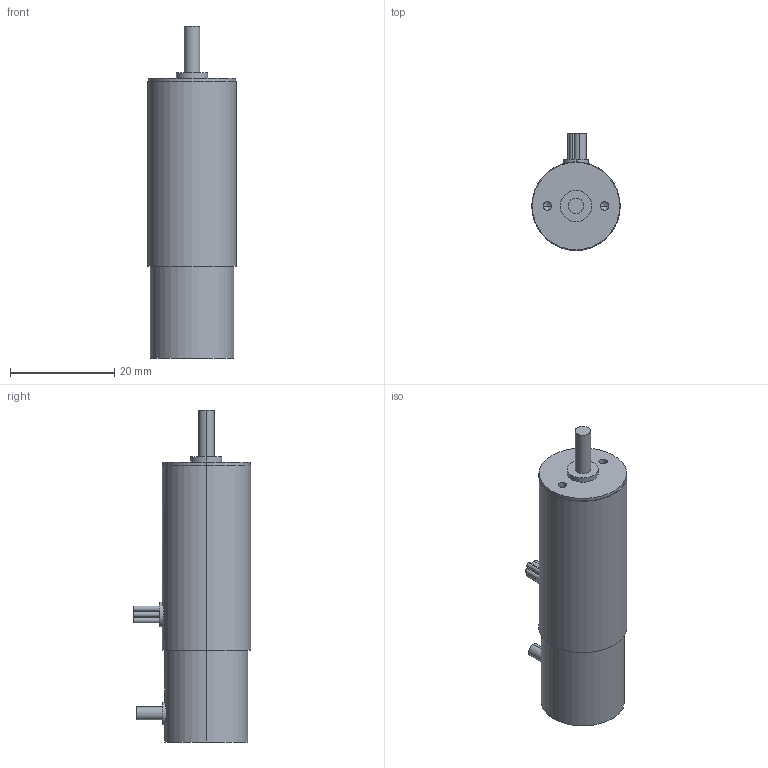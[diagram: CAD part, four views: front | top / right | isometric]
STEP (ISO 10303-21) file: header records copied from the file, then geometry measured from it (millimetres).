
FILE_DESCRIPTION (( 'STEP AP214' ), '1' );
FILE_NAME ('EA-1754.STEP', '2024-11-01T11:38:01', ( '' ), ( '' ), 'SwSTEP 2.0', 'SolidWorks 2024', '' );
FILE_SCHEMA (( 'AUTOMOTIVE_DESIGN' ));
Length unit declared in the file: millimetre
Products named in the file (1): EA-1754
Bounding box: 17 x 22.5 x 63.8 mm (x, y, z)
Volume: 11910.7 mm3; surface area: 3549.4 mm2
Topology: 1 solids, 1 shells, 45 faces, 92 edges, 58 vertices
Faces by surface type: cylinder 28, plane 13, cone 4
Entity records: 1309 total; most frequent: CARTESIAN_POINT 308, DIRECTION 228, ORIENTED_EDGE 176, AXIS2_PLACEMENT_3D 98, EDGE_CURVE 88, EDGE_LOOP 58, VERTEX_POINT 58, CIRCLE 52
